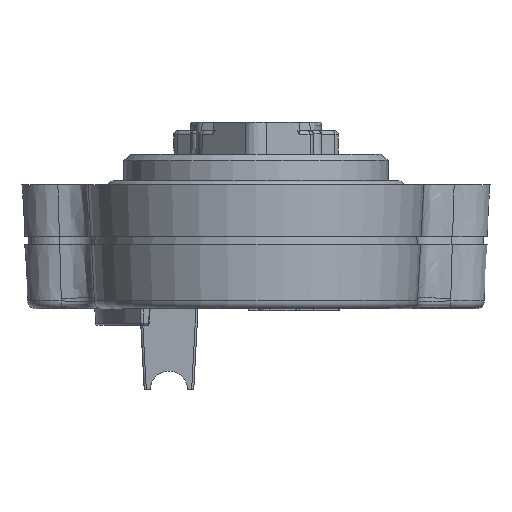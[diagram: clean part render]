
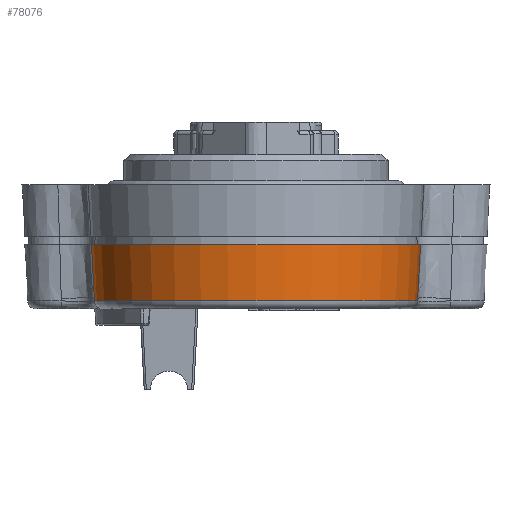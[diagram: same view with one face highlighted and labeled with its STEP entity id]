
A CAD part, left-side view. The second image highlights one B-rep face of the part: STEP entity #78076.
In plain terms, the highlighted conical face has half-angle 3 degrees and reference radius 19.9 mm.
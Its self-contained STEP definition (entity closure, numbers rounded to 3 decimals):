
#3383 = CIRCLE ( 'NONE', #99073, 19.848 ) ;
#6020 = VERTEX_POINT ( 'NONE', #93203 ) ;
#7397 = DIRECTION ( 'NONE',  ( 0., -0.052, -0.999 ) ) ;
#12556 = EDGE_CURVE ( 'NONE', #98762, #107697, #3383, .T. ) ;
#19655 = LINE ( 'NONE', #70299, #100178 ) ;
#25435 = DIRECTION ( 'NONE',  ( 0., 0.052, -0.999 ) ) ;
#38017 = EDGE_CURVE ( 'NONE', #73307, #107697, #126641, .T. ) ;
#39784 = ORIENTED_EDGE ( 'NONE', *, *, #38017, .T. ) ;
#46724 = DIRECTION ( 'NONE',  ( 0., 0., -1. ) ) ;
#49787 = EDGE_CURVE ( 'NONE', #6020, #73307, #109985, .T. ) ;
#60716 = EDGE_LOOP ( 'NONE', ( #80639, #80173, #39784, #81814 ) ) ;
#66136 = DIRECTION ( 'NONE',  ( -1., 0., 0. ) ) ;
#68987 = DIRECTION ( 'NONE',  ( 0., 0., -1. ) ) ;
#70197 = CARTESIAN_POINT ( 'NONE',  ( -63.55, -19.848, 1. ) ) ;
#70299 = CARTESIAN_POINT ( 'NONE',  ( -63.55, -19.9, 0. ) ) ;
#70877 = CARTESIAN_POINT ( 'NONE',  ( -63.55, 19.491, 7.802 ) ) ;
#73307 = VERTEX_POINT ( 'NONE', #70877 ) ;
#77084 = AXIS2_PLACEMENT_3D ( 'NONE', #122356, #68987, #79114 ) ;
#77102 = AXIS2_PLACEMENT_3D ( 'NONE', #132641, #46724, #120269 ) ;
#78076 = ADVANCED_FACE ( 'NONE', ( #121403 ), #96695, .T. ) ;
#79114 = DIRECTION ( 'NONE',  ( 1., 0., 0. ) ) ;
#80173 = ORIENTED_EDGE ( 'NONE', *, *, #49787, .T. ) ;
#80639 = ORIENTED_EDGE ( 'NONE', *, *, #114701, .F. ) ;
#81814 = ORIENTED_EDGE ( 'NONE', *, *, #12556, .F. ) ;
#88375 = CARTESIAN_POINT ( 'NONE',  ( -63.55, 19.9, 0. ) ) ;
#93203 = CARTESIAN_POINT ( 'NONE',  ( -63.55, -19.491, 7.802 ) ) ;
#96040 = CARTESIAN_POINT ( 'NONE',  ( -63.55, 0., 1. ) ) ;
#96695 = CONICAL_SURFACE ( 'NONE', #77084, 19.9, 0.052 ) ;
#98762 = VERTEX_POINT ( 'NONE', #70197 ) ;
#99073 = AXIS2_PLACEMENT_3D ( 'NONE', #96040, #118578, #66136 ) ;
#100178 = VECTOR ( 'NONE', #7397, 1000. ) ;
#105131 = CARTESIAN_POINT ( 'NONE',  ( -63.55, 19.848, 1. ) ) ;
#107697 = VERTEX_POINT ( 'NONE', #105131 ) ;
#108514 = VECTOR ( 'NONE', #25435, 1000. ) ;
#109985 = CIRCLE ( 'NONE', #77102, 19.491 ) ;
#114701 = EDGE_CURVE ( 'NONE', #6020, #98762, #19655, .T. ) ;
#118578 = DIRECTION ( 'NONE',  ( 0., 0., -1. ) ) ;
#120269 = DIRECTION ( 'NONE',  ( -1., 0., 0. ) ) ;
#121403 = FACE_OUTER_BOUND ( 'NONE', #60716, .T. ) ;
#122356 = CARTESIAN_POINT ( 'NONE',  ( -63.55, 0., 0. ) ) ;
#126641 = LINE ( 'NONE', #88375, #108514 ) ;
#132641 = CARTESIAN_POINT ( 'NONE',  ( -63.55, 0., 7.802 ) ) ;
